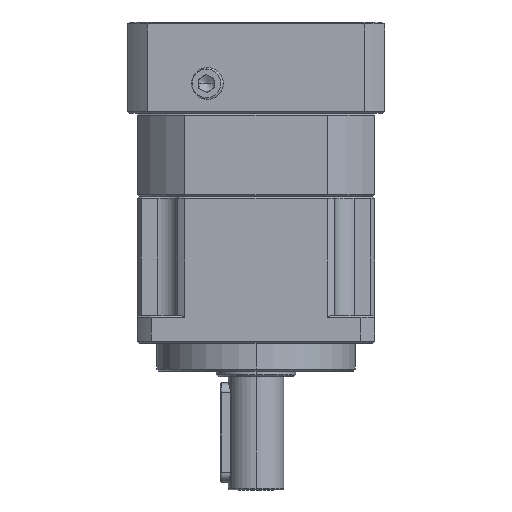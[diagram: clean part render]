
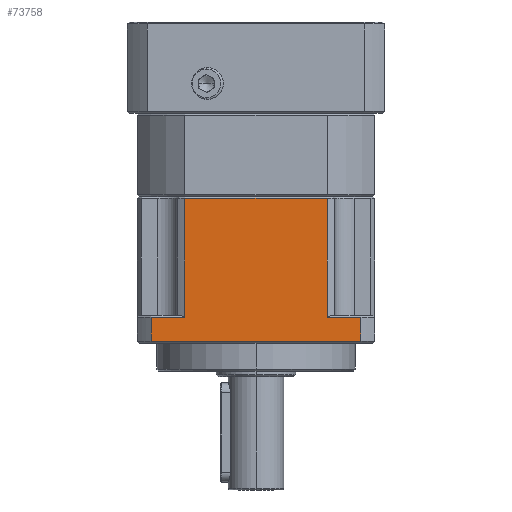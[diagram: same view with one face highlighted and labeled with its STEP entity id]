
A CAD part, left-side view. The second image highlights one B-rep face of the part: STEP entity #73758.
In plain terms, the highlighted planar face has unit normal (-1, 0, 0).
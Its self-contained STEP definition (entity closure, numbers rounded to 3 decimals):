
#2484 = DIRECTION ( 'NONE',  ( 0., 0., -1. ) ) ;
#3365 = CARTESIAN_POINT ( 'NONE',  ( -62.293, -7.115, 110.502 ) ) ;
#5530 = CARTESIAN_POINT ( 'NONE',  ( -62.293, 37.37, 74.502 ) ) ;
#8464 = CARTESIAN_POINT ( 'NONE',  ( -62.293, -15.545, 74.502 ) ) ;
#8980 = LINE ( 'NONE', #22062, #82580 ) ;
#10064 = LINE ( 'NONE', #96439, #31658 ) ;
#13782 = ORIENTED_EDGE ( 'NONE', *, *, #65187, .T. ) ;
#18133 = ORIENTED_EDGE ( 'NONE', *, *, #103391, .F. ) ;
#21142 = VERTEX_POINT ( 'NONE', #97520 ) ;
#21487 = DIRECTION ( 'NONE',  ( 0., 1., 0. ) ) ;
#22062 = CARTESIAN_POINT ( 'NONE',  ( -62.293, 28.941, 111.002 ) ) ;
#22297 = ORIENTED_EDGE ( 'NONE', *, *, #73476, .F. ) ;
#22470 = VERTEX_POINT ( 'NONE', #46173 ) ;
#28069 = VERTEX_POINT ( 'NONE', #3365 ) ;
#29601 = LINE ( 'NONE', #42605, #70150 ) ;
#29640 = CARTESIAN_POINT ( 'NONE',  ( -62.293, -19.087, 110.502 ) ) ;
#30230 = DIRECTION ( 'NONE',  ( 0., 0., 1. ) ) ;
#30718 = CARTESIAN_POINT ( 'NONE',  ( -62.293, -7.115, 111.002 ) ) ;
#31658 = VECTOR ( 'NONE', #39701, 1000. ) ;
#32452 = VECTOR ( 'NONE', #21487, 1000. ) ;
#34684 = ORIENTED_EDGE ( 'NONE', *, *, #43353, .F. ) ;
#38863 = DIRECTION ( 'NONE',  ( 0., 0., -1. ) ) ;
#39481 = VECTOR ( 'NONE', #93639, 1000. ) ;
#39701 = DIRECTION ( 'NONE',  ( 0., -1., 0. ) ) ;
#40543 = LINE ( 'NONE', #72812, #59578 ) ;
#41295 = LINE ( 'NONE', #30718, #81948 ) ;
#42605 = CARTESIAN_POINT ( 'NONE',  ( -62.293, 37.37, 111.002 ) ) ;
#42854 = CARTESIAN_POINT ( 'NONE',  ( -62.293, -15.545, 111.002 ) ) ;
#43353 = EDGE_CURVE ( 'NONE', #28069, #102852, #41295, .T. ) ;
#44009 = VERTEX_POINT ( 'NONE', #5530 ) ;
#44497 = CARTESIAN_POINT ( 'NONE',  ( -62.293, -15.545, 80.502 ) ) ;
#45795 = DIRECTION ( 'NONE',  ( 1., 0., 0. ) ) ;
#46173 = CARTESIAN_POINT ( 'NONE',  ( -62.293, 37.37, 80.502 ) ) ;
#50708 = DIRECTION ( 'NONE',  ( 0., 0., 1. ) ) ;
#53025 = EDGE_CURVE ( 'NONE', #21142, #84804, #8980, .T. ) ;
#53543 = PLANE ( 'NONE',  #71475 ) ;
#53974 = LINE ( 'NONE', #29640, #32452 ) ;
#56229 = EDGE_CURVE ( 'NONE', #96905, #44009, #61050, .T. ) ;
#57021 = ORIENTED_EDGE ( 'NONE', *, *, #87276, .F. ) ;
#59578 = VECTOR ( 'NONE', #81016, 1000. ) ;
#61050 = LINE ( 'NONE', #77326, #39481 ) ;
#62545 = VECTOR ( 'NONE', #2484, 1000. ) ;
#65187 = EDGE_CURVE ( 'NONE', #28069, #84804, #53974, .T. ) ;
#70150 = VECTOR ( 'NONE', #50708, 1000. ) ;
#71475 = AXIS2_PLACEMENT_3D ( 'NONE', #94374, #45795, #102489 ) ;
#72812 = CARTESIAN_POINT ( 'NONE',  ( -62.293, -19.087, 80.502 ) ) ;
#73430 = FACE_OUTER_BOUND ( 'NONE', #80440, .T. ) ;
#73476 = EDGE_CURVE ( 'NONE', #22470, #21142, #40543, .T. ) ;
#73758 = ADVANCED_FACE ( 'NONE', ( #73430 ), #53543, .F. ) ;
#74637 = CARTESIAN_POINT ( 'NONE',  ( -62.293, -7.115, 80.502 ) ) ;
#75628 = EDGE_CURVE ( 'NONE', #86807, #96905, #84129, .T. ) ;
#77326 = CARTESIAN_POINT ( 'NONE',  ( -62.293, -19.087, 74.502 ) ) ;
#78794 = ORIENTED_EDGE ( 'NONE', *, *, #56229, .F. ) ;
#80440 = EDGE_LOOP ( 'NONE', ( #34684, #13782, #90356, #22297, #18133, #78794, #98590, #57021 ) ) ;
#81016 = DIRECTION ( 'NONE',  ( 0., -1., 0. ) ) ;
#81948 = VECTOR ( 'NONE', #38863, 1000. ) ;
#82580 = VECTOR ( 'NONE', #30230, 1000. ) ;
#84129 = LINE ( 'NONE', #42854, #62545 ) ;
#84804 = VERTEX_POINT ( 'NONE', #95315 ) ;
#86807 = VERTEX_POINT ( 'NONE', #44497 ) ;
#87276 = EDGE_CURVE ( 'NONE', #102852, #86807, #10064, .T. ) ;
#90356 = ORIENTED_EDGE ( 'NONE', *, *, #53025, .F. ) ;
#93639 = DIRECTION ( 'NONE',  ( 0., 1., 0. ) ) ;
#94374 = CARTESIAN_POINT ( 'NONE',  ( -62.293, -19.087, 111.002 ) ) ;
#95315 = CARTESIAN_POINT ( 'NONE',  ( -62.293, 28.941, 110.502 ) ) ;
#96439 = CARTESIAN_POINT ( 'NONE',  ( -62.293, -19.087, 80.502 ) ) ;
#96905 = VERTEX_POINT ( 'NONE', #8464 ) ;
#97520 = CARTESIAN_POINT ( 'NONE',  ( -62.293, 28.941, 80.502 ) ) ;
#98590 = ORIENTED_EDGE ( 'NONE', *, *, #75628, .F. ) ;
#102489 = DIRECTION ( 'NONE',  ( 0., 0., -1. ) ) ;
#102852 = VERTEX_POINT ( 'NONE', #74637 ) ;
#103391 = EDGE_CURVE ( 'NONE', #44009, #22470, #29601, .T. ) ;
